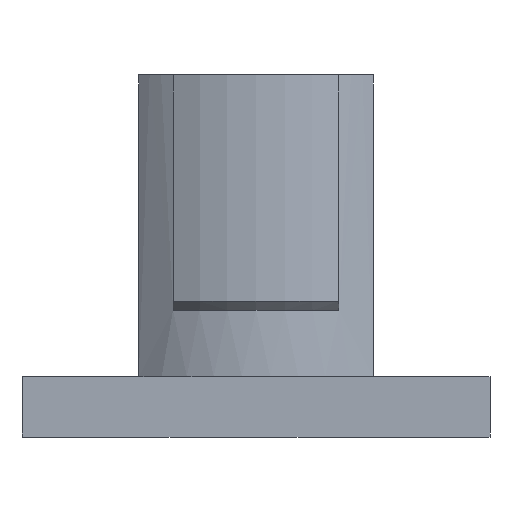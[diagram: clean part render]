
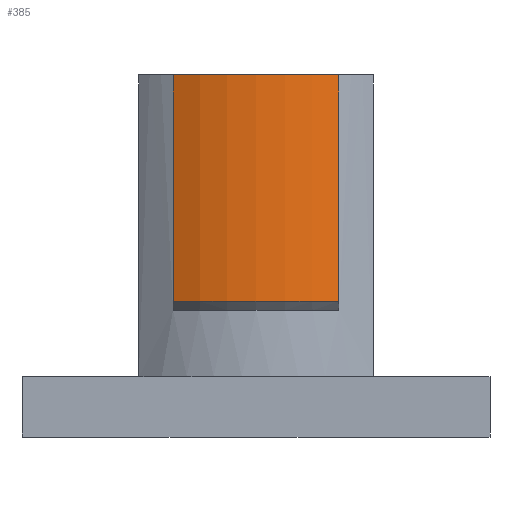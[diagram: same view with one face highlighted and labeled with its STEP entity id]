
A CAD part, front view. The second image highlights one B-rep face of the part: STEP entity #385.
In plain terms, the highlighted cylindrical face has radius 6.257 mm (diameter 12.513 mm), a partial arc.
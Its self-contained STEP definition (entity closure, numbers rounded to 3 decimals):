
#273 = EDGE_CURVE('',#274,#276,#278,.T.);
#274 = VERTEX_POINT('',#275);
#275 = CARTESIAN_POINT('',(2.75,9.38,27.5));
#276 = VERTEX_POINT('',#277);
#277 = CARTESIAN_POINT('',(2.75,9.38,35.));
#278 = LINE('',#279,#280);
#279 = CARTESIAN_POINT('',(2.75,9.38,27.2));
#280 = VECTOR('',#281,1.);
#281 = DIRECTION('',(0.,0.,1.));
#338 = EDGE_CURVE('',#339,#341,#343,.T.);
#339 = VERTEX_POINT('',#340);
#340 = CARTESIAN_POINT('',(-2.75,9.38,27.5));
#341 = VERTEX_POINT('',#342);
#342 = CARTESIAN_POINT('',(-2.75,9.38,35.));
#343 = LINE('',#344,#345);
#344 = CARTESIAN_POINT('',(-2.75,9.38,27.2));
#345 = VECTOR('',#346,1.);
#346 = DIRECTION('',(0.,0.,1.));
#371 = EDGE_CURVE('',#341,#276,#372,.T.);
#372 = CIRCLE('',#373,6.257);
#373 = AXIS2_PLACEMENT_3D('',#374,#375,#376);
#374 = CARTESIAN_POINT('',(0.,15.,35.));
#375 = DIRECTION('',(0.,0.,1.));
#376 = DIRECTION('',(1.,0.,0.));
#385 = ADVANCED_FACE('',(#386),#398,.T.);
#386 = FACE_BOUND('',#387,.F.);
#387 = EDGE_LOOP('',(#388,#389,#390,#391));
#388 = ORIENTED_EDGE('',*,*,#338,.T.);
#389 = ORIENTED_EDGE('',*,*,#371,.T.);
#390 = ORIENTED_EDGE('',*,*,#273,.F.);
#391 = ORIENTED_EDGE('',*,*,#392,.F.);
#392 = EDGE_CURVE('',#339,#274,#393,.T.);
#393 = CIRCLE('',#394,6.257);
#394 = AXIS2_PLACEMENT_3D('',#395,#396,#397);
#395 = CARTESIAN_POINT('',(0.,15.,27.5));
#396 = DIRECTION('',(0.,0.,1.));
#397 = DIRECTION('',(-0.44,-0.898,0.));
#398 = CYLINDRICAL_SURFACE('',#399,6.257);
#399 = AXIS2_PLACEMENT_3D('',#400,#401,#402);
#400 = CARTESIAN_POINT('',(0.,15.,27.2));
#401 = DIRECTION('',(-0.,-0.,-1.));
#402 = DIRECTION('',(1.,0.,0.));
